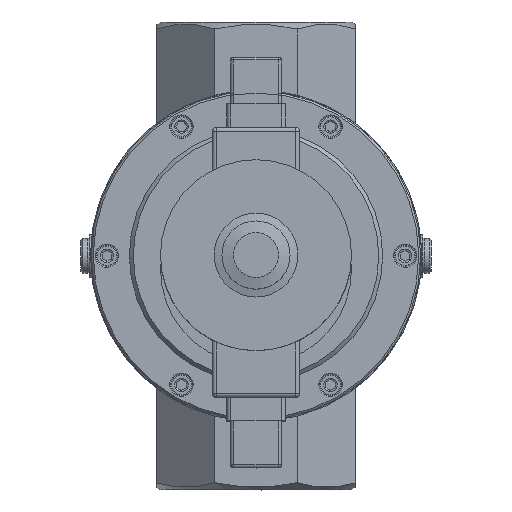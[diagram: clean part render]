
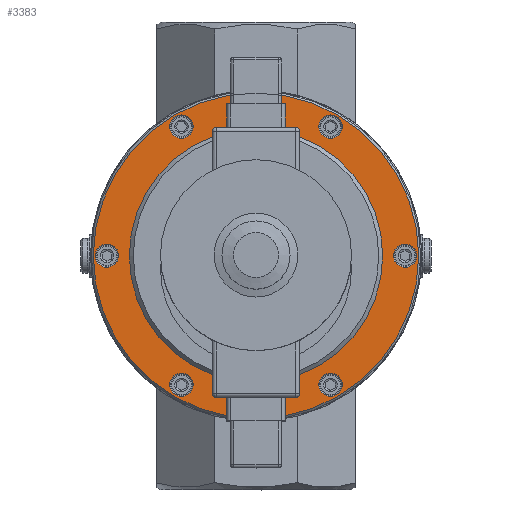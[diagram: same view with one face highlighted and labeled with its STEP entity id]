
A CAD part, top view. The second image highlights one B-rep face of the part: STEP entity #3383.
In plain terms, the highlighted planar face has unit normal (0, 0, 1).
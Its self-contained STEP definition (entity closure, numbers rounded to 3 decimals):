
#3383 = ADVANCED_FACE( '', ( #4946, #4947, #4948, #4949, #4950, #4951, #4952, #4953 ), #4954, .F. );
#4946 = FACE_BOUND( '', #7471, .T. );
#4947 = FACE_BOUND( '', #7472, .T. );
#4948 = FACE_BOUND( '', #7473, .T. );
#4949 = FACE_BOUND( '', #7474, .T. );
#4950 = FACE_BOUND( '', #7475, .T. );
#4951 = FACE_BOUND( '', #7476, .T. );
#4952 = FACE_OUTER_BOUND( '', #7477, .T. );
#4953 = FACE_BOUND( '', #7478, .T. );
#4954 = PLANE( '', #7479 );
#7471 = EDGE_LOOP( '', ( #12499 ) );
#7472 = EDGE_LOOP( '', ( #12500 ) );
#7473 = EDGE_LOOP( '', ( #12501 ) );
#7474 = EDGE_LOOP( '', ( #12502 ) );
#7475 = EDGE_LOOP( '', ( #12503 ) );
#7476 = EDGE_LOOP( '', ( #12504 ) );
#7477 = EDGE_LOOP( '', ( #12505 ) );
#7478 = EDGE_LOOP( '', ( #12506 ) );
#7479 = AXIS2_PLACEMENT_3D( '', #12507, #12508, #12509 );
#12499 = ORIENTED_EDGE( '', *, *, #16714, .T. );
#12500 = ORIENTED_EDGE( '', *, *, #16715, .T. );
#12501 = ORIENTED_EDGE( '', *, *, #16716, .T. );
#12502 = ORIENTED_EDGE( '', *, *, #16717, .T. );
#12503 = ORIENTED_EDGE( '', *, *, #16718, .T. );
#12504 = ORIENTED_EDGE( '', *, *, #16719, .T. );
#12505 = ORIENTED_EDGE( '', *, *, #16712, .T. );
#12506 = ORIENTED_EDGE( '', *, *, #16713, .T. );
#12507 = CARTESIAN_POINT( '', ( 0., 0., 11. ) );
#12508 = DIRECTION( '', ( 0., 0., -1. ) );
#12509 = DIRECTION( '', ( -1., 0., 0. ) );
#16712 = EDGE_CURVE( '', #18731, #18731, #18732, .F. );
#16713 = EDGE_CURVE( '', #18733, #18733, #18734, .T. );
#16714 = EDGE_CURVE( '', #18735, #18735, #18736, .T. );
#16715 = EDGE_CURVE( '', #18737, #18737, #18738, .T. );
#16716 = EDGE_CURVE( '', #18739, #18739, #18740, .T. );
#16717 = EDGE_CURVE( '', #18741, #18741, #18742, .T. );
#16718 = EDGE_CURVE( '', #18743, #18743, #18744, .T. );
#16719 = EDGE_CURVE( '', #18745, #18745, #18746, .T. );
#18731 = VERTEX_POINT( '', #23107 );
#18732 = CIRCLE( '', #23108, 83.5 );
#18733 = VERTEX_POINT( '', #23109 );
#18734 = CIRCLE( '', #23110, 65. );
#18735 = VERTEX_POINT( '', #23111 );
#18736 = CIRCLE( '', #23112, 6. );
#18737 = VERTEX_POINT( '', #23113 );
#18738 = CIRCLE( '', #23114, 6. );
#18739 = VERTEX_POINT( '', #23115 );
#18740 = CIRCLE( '', #23116, 6. );
#18741 = VERTEX_POINT( '', #23117 );
#18742 = CIRCLE( '', #23118, 6. );
#18743 = VERTEX_POINT( '', #23119 );
#18744 = CIRCLE( '', #23120, 6. );
#18745 = VERTEX_POINT( '', #23121 );
#18746 = CIRCLE( '', #23122, 6. );
#23107 = CARTESIAN_POINT( '', ( -83.5, 0., 11. ) );
#23108 = AXIS2_PLACEMENT_3D( '', #27441, #27442, #27443 );
#23109 = CARTESIAN_POINT( '', ( 0., 65., 11. ) );
#23110 = AXIS2_PLACEMENT_3D( '', #27444, #27445, #27446 );
#23111 = CARTESIAN_POINT( '', ( -44.25, -66.251, 11. ) );
#23112 = AXIS2_PLACEMENT_3D( '', #27447, #27448, #27449 );
#23113 = CARTESIAN_POINT( '', ( 32.25, -66.251, 11. ) );
#23114 = AXIS2_PLACEMENT_3D( '', #27450, #27451, #27452 );
#23115 = CARTESIAN_POINT( '', ( 70.5, 0., 11. ) );
#23116 = AXIS2_PLACEMENT_3D( '', #27453, #27454, #27455 );
#23117 = CARTESIAN_POINT( '', ( 32.25, 66.251, 11. ) );
#23118 = AXIS2_PLACEMENT_3D( '', #27456, #27457, #27458 );
#23119 = CARTESIAN_POINT( '', ( -44.25, 66.251, 11. ) );
#23120 = AXIS2_PLACEMENT_3D( '', #27459, #27460, #27461 );
#23121 = CARTESIAN_POINT( '', ( -82.5, 0., 11. ) );
#23122 = AXIS2_PLACEMENT_3D( '', #27462, #27463, #27464 );
#27441 = CARTESIAN_POINT( '', ( 0., 0., 11. ) );
#27442 = DIRECTION( '', ( 0., 0., -1. ) );
#27443 = DIRECTION( '', ( -1., 0., 0. ) );
#27444 = CARTESIAN_POINT( '', ( 0., 0., 11. ) );
#27445 = DIRECTION( '', ( 0., 0., -1. ) );
#27446 = DIRECTION( '', ( 0., 1., 0. ) );
#27447 = CARTESIAN_POINT( '', ( -38.25, -66.251, 11. ) );
#27448 = DIRECTION( '', ( 0., 0., -1. ) );
#27449 = DIRECTION( '', ( -1., 0., 0. ) );
#27450 = CARTESIAN_POINT( '', ( 38.25, -66.251, 11. ) );
#27451 = DIRECTION( '', ( 0., 0., -1. ) );
#27452 = DIRECTION( '', ( -1., 0., 0. ) );
#27453 = CARTESIAN_POINT( '', ( 76.5, 0., 11. ) );
#27454 = DIRECTION( '', ( 0., 0., -1. ) );
#27455 = DIRECTION( '', ( -1., 0., 0. ) );
#27456 = CARTESIAN_POINT( '', ( 38.25, 66.251, 11. ) );
#27457 = DIRECTION( '', ( 0., 0., -1. ) );
#27458 = DIRECTION( '', ( -1., 0., 0. ) );
#27459 = CARTESIAN_POINT( '', ( -38.25, 66.251, 11. ) );
#27460 = DIRECTION( '', ( 0., 0., -1. ) );
#27461 = DIRECTION( '', ( -1., 0., 0. ) );
#27462 = CARTESIAN_POINT( '', ( -76.5, 0., 11. ) );
#27463 = DIRECTION( '', ( 0., 0., -1. ) );
#27464 = DIRECTION( '', ( -1., 0., 0. ) );
